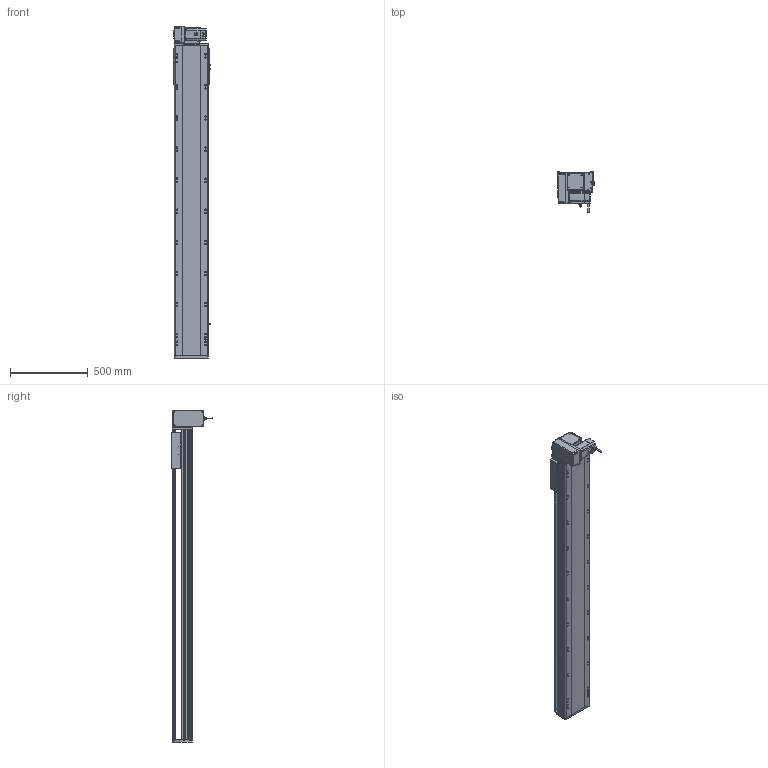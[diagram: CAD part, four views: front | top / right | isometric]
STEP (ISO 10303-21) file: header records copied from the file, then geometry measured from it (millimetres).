
FILE_DESCRIPTION (( 'STEP AP214' ), '1' );
FILE_NAME ('RTB22S-XX-1650-LM-M75-C4.STEP', '2025-12-12T03:53:09', ( '' ), ( '' ), 'SwSTEP 2.0', 'SolidWorks 2018', '' );
FILE_SCHEMA (( 'AUTOMOTIVE_DESIGN' ));
Length unit declared in the file: millimetre
Products named in the file (14): RTB22S-GY-001耜裔^RTB22S-XX-XX-LM-M75-C4; RTH22-GY-013外置感应片^RTB22S-XX-XX-LM-M75-C4; RTB22S-GY-005P^RMP22S-LM-々湍釱蚾饜_RTB22S-XX-XX-LM-M75-C4; RTB22S-GY-007奻裔^RTB22S-XX-XX-LM-M75-C4; RTB22S-XX-1650-LM-M75-C4; 750W萇儂^RTB22S-XX-XX-LM-M75-C4; RTB22S-L-004賑釱^RTB22S-XX-XX-LM-M75-C4; RTB22S-L-011菁釱^RTB22S-XX-XX-LM-M75-C4; RTB22S-GY-008-M75--萇儂啣^RMP22S-LM-々湍釱蚾饜_RTB22S-XX-XX-LM-M75-C4; OMRON EE-SX672 传感器^RTB22S-XX-XX-LM-M75-C4; RTB22S-GY-018P^RMP22S-LM-々湍釱蚾饜_RTB22S-XX-XX-LM-M75-C4; RTB22S-GY-014--々湍釱^RMP22S-LM-々湍釱蚾饜_RTB22S-XX-XX-LM-M75-C4; RMP22S-LM-々湍釱蚾饜^RTB22S-XX-XX-LM-M75-C4; RTB22S-GY-017P^RMP22S-LM-々湍釱蚾饜_RTB22S-XX-XX-LM-M75-C4
Assembly tree (16 placements, depth 3):
  RTB22S-XX-1650-LM-M75-C4
    RTB22S-L-011菁釱^RTB22S-XX-XX-LM-M75-C4
    RTB22S-GY-001耜裔^RTB22S-XX-XX-LM-M75-C4
    750W萇儂^RTB22S-XX-XX-LM-M75-C4
    RTB22S-GY-007奻裔^RTB22S-XX-XX-LM-M75-C4
    RTB22S-L-004賑釱^RTB22S-XX-XX-LM-M75-C4
    RTH22-GY-013外置感应片^RTB22S-XX-XX-LM-M75-C4
    OMRON EE-SX672 传感器^RTB22S-XX-XX-LM-M75-C4  x3
    RMP22S-LM-々湍釱蚾饜^RTB22S-XX-XX-LM-M75-C4
      RTB22S-GY-014--々湍釱^RMP22S-LM-々湍釱蚾饜_RTB22S-XX-XX-LM-M75-C4
      RTB22S-GY-017P^RMP22S-LM-々湍釱蚾饜_RTB22S-XX-XX-LM-M75-C4  x2
      RTB22S-GY-005P^RMP22S-LM-々湍釱蚾饜_RTB22S-XX-XX-LM-M75-C4
      RTB22S-GY-008-M75--萇儂啣^RMP22S-LM-々湍釱蚾饜_RTB22S-XX-XX-LM-M75-C4
      RTB22S-GY-018P^RMP22S-LM-々湍釱蚾饜_RTB22S-XX-XX-LM-M75-C4
Bounding box: 238.5 x 264.7 x 2137.5 mm (x, y, z)
Volume: 28857731.8 mm3; surface area: 2974788.9 mm2
Topology: 15 solids, 15 shells, 2037 faces, 5536 edges, 3542 vertices
Faces by surface type: plane 921, cylinder 658, bspline 296, cone 150, sphere 8, torus 4
Entity records: 54742 total; most frequent: CARTESIAN_POINT 15616, ORIENTED_EDGE 7836, DIRECTION 7592, EDGE_CURVE 3918, AXIS2_PLACEMENT_3D 2698, VERTEX_POINT 2546, LINE 2196, VECTOR 2196
